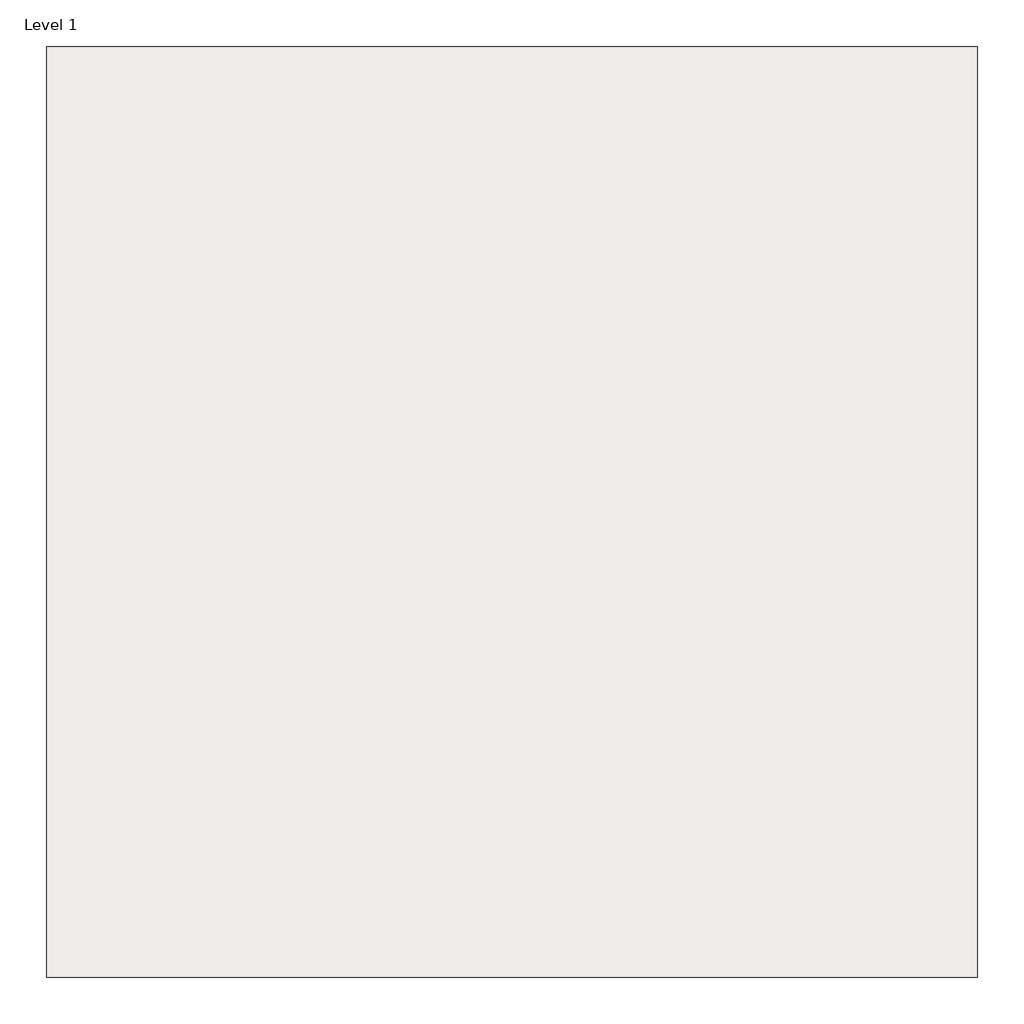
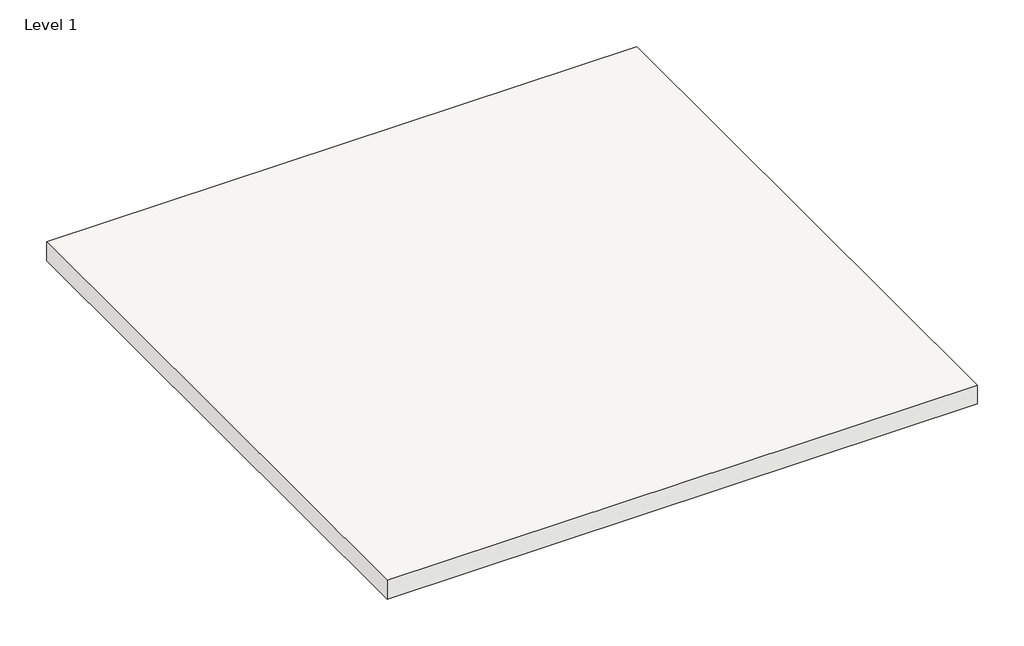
# One storey: 1 covering.
"""IFC4 building model written with IfcOpenShell, lengths in millimetres."""

import ifcopenshell
import ifcopenshell.guid

model = None  # the IFC model being written
_history = None  # IfcOwnerHistory: only IFC2X3 demands one
_inside = {}  # id of a spatial element -> (the spatial element, [elements in it])
_under = {}  # id of a project, library or spatial element -> (it, [spatial elements below it])
_declared = {}  # id of a project -> (the project, [libraries it declares])
_typed = {}  # id of a type object -> (the type object, [elements of that type])
_made_of = {}  # id of a material, layer set ... -> (it, [elements and type objects made of it])


def new_model(schema):
    """Start an empty IFC model of exactly this schema.

    Asked for "IFC4X3", IfcOpenShell would pick the latest addendum, in which some entities
    have other attributes; the version numbers below select the first issue.
    IFC2X3 requires an IfcOwnerHistory on every rooted entity: one is made here for all.
    """
    global model, _history
    if schema == "IFC4X3":
        model = ifcopenshell.file(schema_version=(4, 3, 0, 0))
    else:
        model = ifcopenshell.file(schema=schema)
    _inside.clear()
    _under.clear()
    _declared.clear()
    _typed.clear()
    _made_of.clear()
    _history = None
    if model.schema == "IFC2X3":
        org = make("IfcOrganization", Name="unknown")
        user = make(
            "IfcPersonAndOrganization",
            ThePerson=make("IfcPerson", FamilyName="unknown"),
            TheOrganization=org,
        )
        app = make(
            "IfcApplication",
            ApplicationDeveloper=org,
            Version="unknown",
            ApplicationFullName="unknown",
            ApplicationIdentifier="unknown",
        )
        _history = make(
            "IfcOwnerHistory",
            OwningUser=user,
            OwningApplication=app,
            ChangeAction="ADDED",
            CreationDate=0,
        )
    return model


def make(cls, **values):
    """One entity of the class cls with the attributes given. An attribute that is None is left unset."""
    return model.create_entity(
        cls, **{name: value for name, value in values.items() if value is not None}
    )


def rooted(cls, **values):
    """An entity with a GlobalId (a new one), such as an element, a storey or a relation."""
    return make(cls, GlobalId=ifcopenshell.guid.new(), OwnerHistory=_history, **values)


def si_unit(unit_type, name, prefix=None):
    """IfcSIUnit, for example si_unit("LENGTHUNIT", "METRE", prefix="MILLI")."""
    return make("IfcSIUnit", UnitType=unit_type, Prefix=prefix, Name=name)


def assignment(units):
    """IfcUnitAssignment: the units of a project."""
    return None if units is None else make("IfcUnitAssignment", Units=units)


def point(xyz):
    """IfcCartesianPoint."""
    return None if xyz is None else make("IfcCartesianPoint", Coordinates=xyz)


def direction(xyz):
    """IfcDirection."""
    return None if xyz is None else make("IfcDirection", DirectionRatios=xyz)


def frame(location, z_axis=None, x_axis=None):
    """IfcAxis2Placement3D, a coordinate frame: its origin and axes. An axis left out is left unset."""
    return make(
        "IfcAxis2Placement3D",
        Location=point(location),
        Axis=direction(z_axis),
        RefDirection=direction(x_axis),
    )


def origin():
    """The frame at (0, 0, 0) with its axes left unset."""
    return frame((0.0, 0.0, 0.0))


def origin_with_axes():
    """The frame at (0, 0, 0) with the z axis (0, 0, 1) and the x axis (1, 0, 0) written out."""
    return frame((0.0, 0.0, 0.0), z_axis=(0.0, 0.0, 1.0), x_axis=(1.0, 0.0, 0.0))


def place(relative_to, where):
    """IfcLocalPlacement: puts the frame where relative to a parent placement (None: the world)."""
    return make(
        "IfcLocalPlacement", PlacementRelTo=relative_to, RelativePlacement=where
    )


def context(
    kind, dimensions, precision=None, world=None, true_north=None, identifier=None
):
    """IfcGeometricRepresentationContext, for example the 3D "Model" context."""
    return make(
        "IfcGeometricRepresentationContext",
        ContextIdentifier=identifier,
        ContextType=kind,
        CoordinateSpaceDimension=dimensions,
        Precision=precision,
        WorldCoordinateSystem=world,
        TrueNorth=true_north,
    )


def project(units=None, contexts=None):
    """IfcProject with its units and contexts."""
    return rooted(
        "IfcProject",
        Name="project",
        RepresentationContexts=contexts,
        UnitsInContext=assignment(units),
    )


def spatial(cls, under=None, at=None, **own):
    """A site, building, storey or space (cls), placed at a placement, below another one or the project."""
    s = rooted(cls, ObjectPlacement=at, **own)
    if under is not None:
        _under.setdefault(under.id(), (under, []))[1].append(s)
    return s


def polyline(points):
    """IfcPolyline through the points."""
    return make("IfcPolyline", Points=[point(p) for p in points])


def outline(outer, holes=None, kind="AREA"):
    """IfcArbitraryClosedProfileDef: a profile drawn as a closed curve; with holes, ...WithVoids."""
    if holes is None:
        return make("IfcArbitraryClosedProfileDef", ProfileType=kind, OuterCurve=outer)
    return make(
        "IfcArbitraryProfileDefWithVoids",
        ProfileType=kind,
        OuterCurve=outer,
        InnerCurves=holes,
    )


def extrude(swept, where, along, depth):
    """IfcExtrudedAreaSolid: the profile swept, set in the frame where, extruded along a direction by depth."""
    return make(
        "IfcExtrudedAreaSolid",
        SweptArea=swept,
        Position=where,
        ExtrudedDirection=direction(along),
        Depth=depth,
    )


def shape(context_of_items, identifier, shape_type, items):
    """IfcShapeRepresentation: the items that make up one representation, for example the "Body"."""
    return make(
        "IfcShapeRepresentation",
        ContextOfItems=context_of_items,
        RepresentationIdentifier=identifier,
        RepresentationType=shape_type,
        Items=items,
    )


def made_of(thing, what):
    """Note that an element or type object is made of a material, layer set ...; save() writes the relation."""
    if what is not None:
        _made_of.setdefault(what.id(), (what, []))[1].append(thing)
    return thing


def element(
    cls,
    number,
    at=None,
    inside=None,
    cuts=None,
    type_object=None,
    material=None,
    context=None,
    identifier="Body",
    shape_type=None,
    held_by="IfcProductDefinitionShape",
    body=None,
    shapes=None,
    **own,
):
    """One element of the class cls, such as IfcWall. Its Tag is "e" and its number.

    at: its placement. inside: the storey or other place that contains it. cuts: it is an
    opening in that element (IfcRelVoidsElement). A single representation is given by context,
    identifier, shape_type and body (its items); several are given by shapes. held_by: the class
    of the entity that holds the representations. save() writes the other relations.
    """
    e = rooted(cls, Tag="e%d" % number, ObjectPlacement=at, **own)
    if body is not None:
        shapes = [shape(context, identifier, shape_type, body)]
    if shapes is not None:
        e.Representation = make(held_by, Representations=shapes)
    if inside is not None:
        _inside.setdefault(inside.id(), (inside, []))[1].append(e)
    if cuts is not None:
        rooted(
            "IfcRelVoidsElement", RelatingBuildingElement=cuts, RelatedOpeningElement=e
        )
    if type_object is not None:
        _typed.setdefault(type_object.id(), (type_object, []))[1].append(e)
    return made_of(e, material)


def aggregate(whole, parts):
    """IfcRelAggregates: a whole, such as a stair, and the parts it consists of."""
    return rooted("IfcRelAggregates", RelatingObject=whole, RelatedObjects=parts)


def save(model, path):
    """Write the relations noted so far, then the file.

    IfcRelAggregates (storeys below a building ...), IfcRelContainedInSpatialStructure (elements
    in a storey), IfcRelDefinesByType, IfcRelAssociatesMaterial and IfcRelDeclares: one each for
    every whole, place, type object, material and project.
    """
    for whole, parts in _under.values():
        aggregate(whole, parts)
    for where, things in _inside.values():
        rooted(
            "IfcRelContainedInSpatialStructure",
            RelatedElements=things,
            RelatingStructure=where,
        )
    for kind, things in _typed.values():
        rooted("IfcRelDefinesByType", RelatedObjects=things, RelatingType=kind)
    for what, things in _made_of.values():
        rooted("IfcRelAssociatesMaterial", RelatedObjects=things, RelatingMaterial=what)
    for by, libraries in _declared.values():
        rooted("IfcRelDeclares", RelatingContext=by, RelatedDefinitions=libraries)
    model.write(path)


model = new_model("IFC4")

# Units and contexts
model_context = context("Model", 3, world=origin())
ifc_project = project(units=[si_unit("LENGTHUNIT", "METRE", prefix="MILLI")], contexts=[model_context])

# Site, building, storey
site = spatial("IfcSite", under=ifc_project)
building = spatial("IfcBuilding", under=site)
storey = spatial("IfcBuildingStorey", under=building, Name="Level 1", Elevation=0.0)

# Covering
placement = place(None, origin())
element("IfcCovering", 1, ObjectType="RIGIPS - 4.05.71 (100)", at=placement, inside=storey, context=model_context, shape_type="SweptSolid", body=[
    extrude(outline(polyline([(-1500.0, 1500.0), (1500.0, 1500.0), (1500.0, -1500.0), (-1500.0, -1500.0), (-1500.0, 1500.0)])), origin_with_axes(), (0.0, 0.0, 1.0), 100.0),
])

save(model, "model.ifc")
